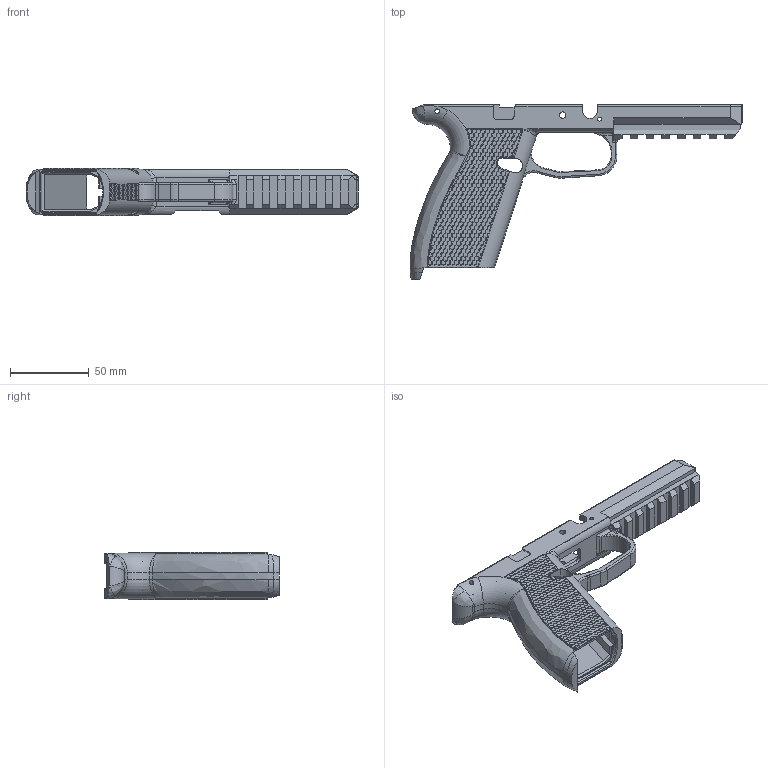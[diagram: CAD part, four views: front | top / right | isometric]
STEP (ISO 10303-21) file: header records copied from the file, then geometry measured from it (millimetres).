
FILE_DESCRIPTION(/* description */ (''),/* implementation_level */ '2;1');
FILE_NAME(/* name */ 'C:/Users/jskat/Documents/TMS-94-long-backstrap-internetpizza.step',/* time_stamp */ '2021-06-05T10:49:57-07:00',/* author */ (''),/* organization */ (''),/* preprocessor_version */ 'ST-DEVELOPER v18.1',/* originating_system */ 'Autodesk Translation Framework v10.9.0.1377',/* authorisation */ '');
FILE_SCHEMA (('AUTOMOTIVE_DESIGN { 1 0 10303 214 3 1 1 }'));
Products named in the file (4): fns40backstrap; Main Frame; Standard Size Grip; Standard Size Grip (Stopgap)
Assembly tree (3 placements, depth 3):
  fns40backstrap
    Main Frame
      Standard Size Grip
      Standard Size Grip (Stopgap)
Bounding box: 210.63 x 110.97 x 29.82 mm (x, y, z)
Volume: 105949.5 mm3; surface area: 53066 mm2
Topology: 1 solids, 1 shells, 8331 faces, 22265 edges, 14658 vertices
Faces by surface type: plane 8047, cylinder 130, bspline 116, torus 34, cone 4
Full cylindrical faces by diameter (mm): 2.5 x2, 3 x2, 4.1 x2
Entity records: 257479 total; most frequent: CARTESIAN_POINT 50209, ORIENTED_EDGE 44524, DIRECTION 38612, EDGE_CURVE 22262, LINE 21462, VECTOR 21462, VERTEX_POINT 14658, EDGE_LOOP 9078
